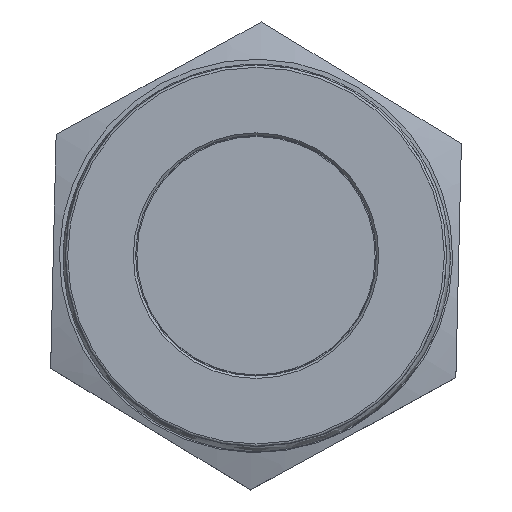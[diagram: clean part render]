
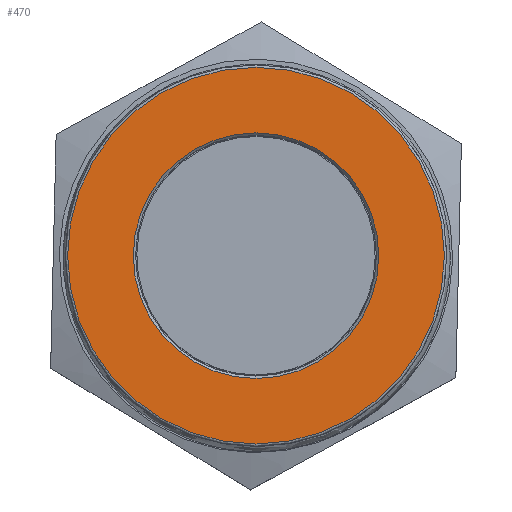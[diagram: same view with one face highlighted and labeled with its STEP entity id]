
A CAD part, top view. The second image highlights one B-rep face of the part: STEP entity #470.
In plain terms, the highlighted planar face has unit normal (0, 0, 1).
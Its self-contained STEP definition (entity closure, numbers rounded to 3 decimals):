
#470 = ADVANCED_FACE( '', ( #871, #872 ), #873, .T. );
#871 = FACE_OUTER_BOUND( '', #5945, .T. );
#872 = FACE_BOUND( '', #5946, .T. );
#873 = PLANE( '', #5947 );
#5945 = EDGE_LOOP( '', ( #6627 ) );
#5946 = EDGE_LOOP( '', ( #6628 ) );
#5947 = AXIS2_PLACEMENT_3D( '', #6629, #6630, #6631 );
#6627 = ORIENTED_EDGE( '', *, *, #6737, .T. );
#6628 = ORIENTED_EDGE( '', *, *, #6791, .T. );
#6629 = CARTESIAN_POINT( '', ( 0., 0., 15.95 ) );
#6630 = DIRECTION( '', ( 0., 0., 1. ) );
#6631 = DIRECTION( '', ( 1., 0., 0. ) );
#6737 = EDGE_CURVE( '', #7052, #7052, #7053, .T. );
#6791 = EDGE_CURVE( '', #7133, #7133, #7134, .F. );
#7052 = VERTEX_POINT( '', #13470 );
#7053 = CIRCLE( '', #13471, 7.9 );
#7133 = VERTEX_POINT( '', #14383 );
#7134 = CIRCLE( '', #14384, 5.15 );
#13470 = CARTESIAN_POINT( '', ( 7.9, 0., 15.95 ) );
#13471 = AXIS2_PLACEMENT_3D( '', #14856, #14857, #14858 );
#14383 = CARTESIAN_POINT( '', ( 5.15, 0., 15.95 ) );
#14384 = AXIS2_PLACEMENT_3D( '', #14915, #14916, #14917 );
#14856 = CARTESIAN_POINT( '', ( 0., 0., 15.95 ) );
#14857 = DIRECTION( '', ( 0., 0., 1. ) );
#14858 = DIRECTION( '', ( 1., 0., 0. ) );
#14915 = CARTESIAN_POINT( '', ( 0., 0., 15.95 ) );
#14916 = DIRECTION( '', ( 0., 0., 1. ) );
#14917 = DIRECTION( '', ( 1., 0., 0. ) );
